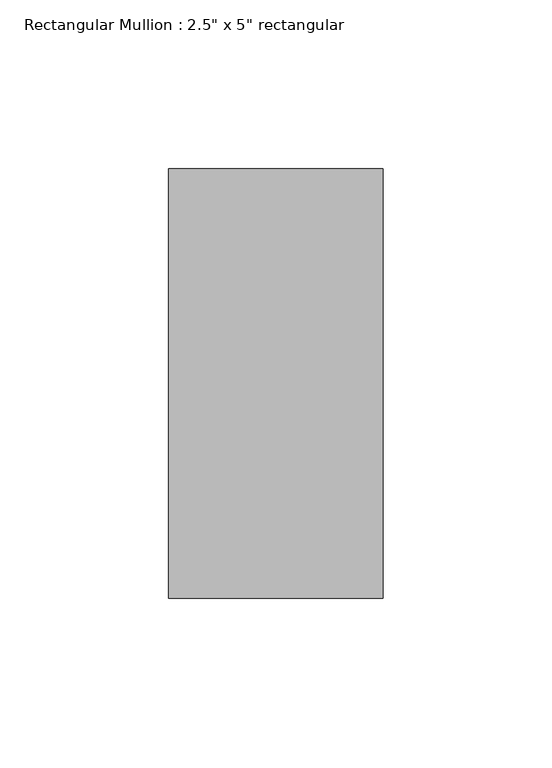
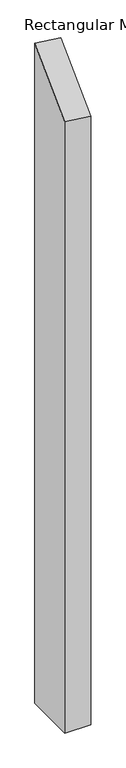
"""IFC4 building model written with IfcOpenShell, lengths in millimetres: member geometry."""

from ifc_helpers import new_model, si_unit, origin, place, context, project, spatial, faceted_brep, source, transform, mapped, element, save


def member_79970b2d(model_context):
    return source(origin(), model_context, "Body", "Brep", [
        faceted_brep([(0.0, 63.5, -1640.68125), (0.0, -63.5, -1640.68125), (-63.5, -63.5, -1640.68125), (-63.5, 63.5, -1640.68125), (-63.5, 63.5, 70.146845), (0.0, 63.5, 63.108758), (-63.5, -63.5, -56.0706709), (0.0, -63.5, -63.108758)], [[[0, 1, 2, 3]], [[4, 5, 0, 3]], [[6, 4, 3, 2]], [[7, 6, 2, 1]], [[5, 7, 1, 0]], [[5, 4, 6, 7]]]),
    ])


if __name__ == "__main__":
    model = new_model("IFC4")
    model_context = context("Model", 3, world=origin())
    ifc_project = project(units=[si_unit("LENGTHUNIT", "METRE", prefix="MILLI")], contexts=[model_context])
    site = spatial("IfcSite", under=ifc_project)
    building = spatial("IfcBuilding", under=site)
    placement = place(None, origin())
    member_shape = member_79970b2d(model_context)
    element("IfcMember", 1, ObjectType="Rectangular Mullion : 2.5\" x 5\" rectangular", at=placement, inside=building, context=model_context, shape_type="MappedRepresentation", body=[
        mapped(member_shape, transform((0.0, 0.0, 0.0), x_axis=(1.0, 0.0, 0.0), y_axis=(0.0, 1.0, 0.0), z_axis=(0.0, 0.0, 1.0))),
    ])
    save(model, "model.ifc")
